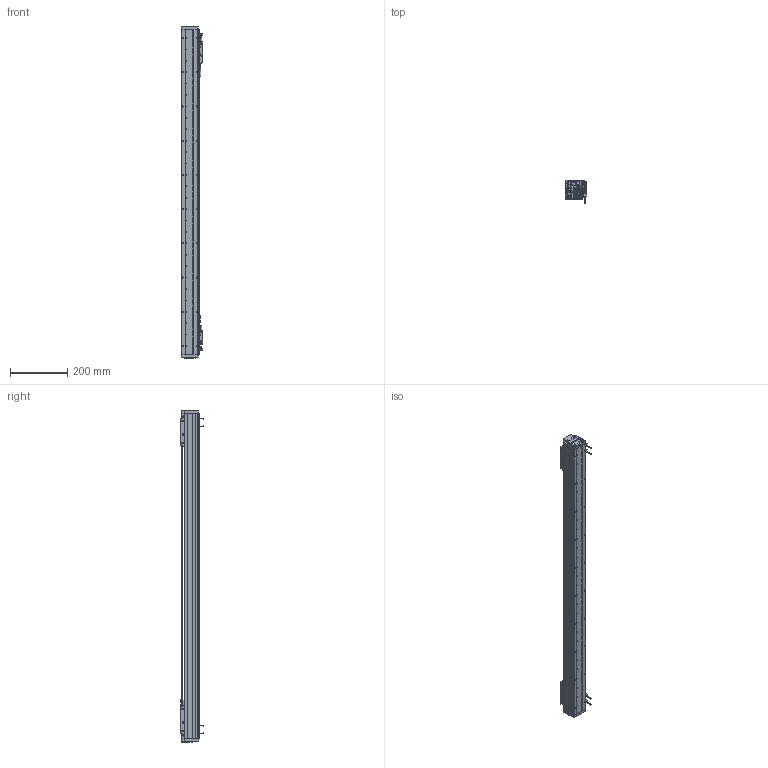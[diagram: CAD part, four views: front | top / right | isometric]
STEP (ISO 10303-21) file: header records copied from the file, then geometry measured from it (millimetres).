
FILE_DESCRIPTION (( 'STEP AP203' ), '1' );
FILE_NAME ('DA-A60-2-B1-T900-C010-0.2 眻盄萇儂.STEP', '2025-08-13T01:24:24', ( '' ), ( '' ), 'SwSTEP 2.0', 'SolidWorks 2019', '' );
FILE_SCHEMA (( 'CONFIG_CONTROL_DESIGN' ));
Length unit declared in the file: millimetre
Products named in the file (27): 复件 DA60-B1-GT-00 滑块钢轨^DA60-YT-B1-HT-B-01 一体化滑动台板; 复件 纯铜油杯 6x6mm^AU60-V 滚珠滑台; ｸｴｼ BAKM01-W030-C1-TP-0.2 ﾖｱﾏﾟｵ扈巐ｯﾗﾓ^DA-A60-2-B1-T60-C010-0.2-N; AU60-L 菁釱絳寢; ｸｴｼ DA60-DMT-DTJ-ZJ-00 ﾖﾐｼ荼ﾁﾊﾍｷﾖｧｼﾜ^DA-A60-2-B1-T60-C010-0.2-N; IU-AU60-L-00 菁釱(1140); 葩璃 PM-T45^DA-A60-2-B1-T60-C010-0.2-N; AU60-V 幗紩賑怢; 葩璃 PM-Y65^DA-A60-2-B1-T60-C010-0.2-N; 葩璃 XD-U-02  棠掑喜^DA-A60-2-B1-T60-C010-0.2-N; 葩璃 AKM01-W030-TRL^DA-A60-2-B1-T60-C010-0.2-N; 复件 DA60-HC-XJ-01 中间缓冲橡胶^DA-A60-2-B1-T60-C010-0.2-N; DA60-YT-B1-HT-B-01 珨极趙賑雄怢啣; 葩璃 DA60-DG-H-N-00 傷裔^DA-A60-2-B1-T60-C010-0.2-N; 复件 DA60-GT-T-00 底座钢轨^AU60-L 底座导轨; ｸｴｼ DA60-GYP-ZJ-01 ﾖﾐｼ荵箏邵ﾐﾓｦﾆｬ^DA-A60-2-B1-T60-C010-0.2-N(ﾄｬﾈﾏ); 葩璃 DA60-HK-DP-01 結え^AU60-V 幗紩賑怢; AU60-V 幗紩賑怢-1; 葩璃 鞠褒情蹟譫 M3^DA-A60-2-B1-T60-C010-0.2-N(GB_FASTENER_NUT_STNAB M3-C); ｸｴｼ DA-A60-GYP-DMT-00 ｹ箏邵ﾐﾓｦﾆｬ^DA-A60-2-B1-T60-C010-0.2-N(ﾄｬﾈﾏ); DA60-YT-B1-HT-B-01 珨极趙賑雄怢啣-1; DA60-T-002-00  裔啣; DA60-B1-HT-B-03 賑雄怢啣; DA-A60-2-B1-T900-C010-0.2 眻盄萇儂; 葩璃 DMT-010 1米m 0.2M^DA-A60-2-B1-T60-C010-0.2-N; 葩璃 DA60-XJ-00 砎蝶結輸^DA-A60-2-B1-T60-C010-0.2-N; 葩璃 DA60-DMT-DTJ-00 黍杅芛盓殤^DA-A60-2-B1-T60-C010-0.2-N
Assembly tree (51 placements, depth 4):
  DA-A60-2-B1-T900-C010-0.2 眻盄萇儂
    AU60-L 菁釱絳寢
      IU-AU60-L-00 菁釱(1140)
      复件 DA60-GT-T-00 底座钢轨^AU60-L 底座导轨  x2
    AU60-V 幗紩賑怢
      DA60-YT-B1-HT-B-01 珨极趙賑雄怢啣
        DA60-B1-HT-B-03 賑雄怢啣
        复件 DA60-B1-GT-00 滑块钢轨^DA60-YT-B1-HT-B-01 一体化滑动台板  x2
      葩璃 DA60-HK-DP-01 結え^AU60-V 幗紩賑怢  x2
      复件 纯铜油杯 6x6mm^AU60-V 滚珠滑台
    AU60-V 幗紩賑怢-1
      DA60-YT-B1-HT-B-01 珨极趙賑雄怢啣-1
        DA60-B1-HT-B-03 賑雄怢啣
        复件 DA60-B1-GT-00 滑块钢轨^DA60-YT-B1-HT-B-01 一体化滑动台板  x2
      葩璃 DA60-HK-DP-01 結え^AU60-V 幗紩賑怢  x2
      复件 纯铜油杯 6x6mm^AU60-V 滚珠滑台
    ｸｴｼ DA60-DMT-DTJ-ZJ-00 ﾖﾐｼ荼ﾁﾊﾍｷﾖｧｼﾜ^DA-A60-2-B1-T60-C010-0.2-N
    葩璃 PM-Y65^DA-A60-2-B1-T60-C010-0.2-N
    复件 DA60-HC-XJ-01 中间缓冲橡胶^DA-A60-2-B1-T60-C010-0.2-N  x2
    ｸｴｼ DA60-GYP-ZJ-01 ﾖﾐｼ荵箏邵ﾐﾓｦﾆｬ^DA-A60-2-B1-T60-C010-0.2-N(ﾄｬﾈﾏ)
    ｸｴｼ DA-A60-GYP-DMT-00 ｹ箏邵ﾐﾓｦﾆｬ^DA-A60-2-B1-T60-C010-0.2-N(ﾄｬﾈﾏ)  x2
    葩璃 DA60-DMT-DTJ-00 黍杅芛盓殤^DA-A60-2-B1-T60-C010-0.2-N
    葩璃 DMT-010 1米m 0.2M^DA-A60-2-B1-T60-C010-0.2-N  x2
    ｸｴｼ BAKM01-W030-C1-TP-0.2 ﾖｱﾏﾟｵ扈巐ｯﾗﾓ^DA-A60-2-B1-T60-C010-0.2-N  x2
    葩璃 DA60-XJ-00 砎蝶結輸^DA-A60-2-B1-T60-C010-0.2-N  x2
    葩璃 DA60-DG-H-N-00 傷裔^DA-A60-2-B1-T60-C010-0.2-N  x2
    DA60-T-002-00  裔啣
    葩璃 AKM01-W030-TRL^DA-A60-2-B1-T60-C010-0.2-N
    葩璃 PM-T45^DA-A60-2-B1-T60-C010-0.2-N  x4
    葩璃 XD-U-02  棠掑喜^DA-A60-2-B1-T60-C010-0.2-N
    葩璃 鞠褒情蹟譫 M3^DA-A60-2-B1-T60-C010-0.2-N(GB_FASTENER_NUT_STNAB M3-C)  x8
Bounding box: 76.95 x 80 x 1164 mm (x, y, z)
Volume: 2488593 mm3; surface area: 887983.2 mm2
Topology: 57 solids, 61 shells, 4028 faces, 10493 edges, 6452 vertices
Faces by surface type: plane 1554, cylinder 1526, bspline 592, cone 342, torus 12, sphere 2
Entity records: 94477 total; most frequent: CARTESIAN_POINT 28774, ORIENTED_EDGE 13540, DIRECTION 12287, EDGE_CURVE 6770, VERTEX_POINT 4291, AXIS2_PLACEMENT_3D 4283, LINE 3721, VECTOR 3721
